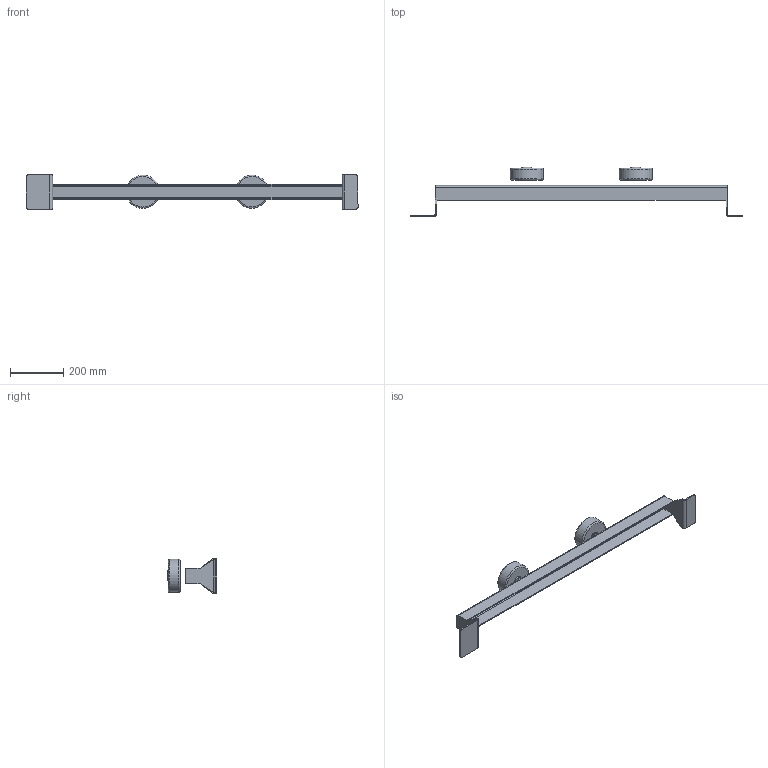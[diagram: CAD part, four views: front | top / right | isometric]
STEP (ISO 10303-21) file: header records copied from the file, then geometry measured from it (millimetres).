
FILE_DESCRIPTION((''),'2;1');
FILE_NAME('C:\Vault_Working_Folder\Designs\Inventor\Lättviktsmodeller\Maxi\IRPH 80-1150.stp','2012-11-13T09:50:37',('martin.samuelsson'),(''),'Autodesk Inventor 2013','Autodesk Inventor 2013','');
FILE_SCHEMA(('AUTOMOTIVE_DESIGN { 1 0 10303 214 1 1 1 1 }'));
Length unit declared in the file: millimetre
Products named in the file (1): IRPH 80-1150
Bounding box: 1249.7 x 185 x 130 mm (x, y, z)
Volume: 1978310.3 mm3; surface area: 511769.2 mm2
Topology: 3 solids, 3 shells, 56 faces, 132 edges, 86 vertices
Faces by surface type: plane 34, cylinder 14, torus 8
Full cylindrical faces by diameter (mm): 125 x2
Entity records: 1626 total; most frequent: DIRECTION 274, CARTESIAN_POINT 257, ORIENTED_EDGE 236, EDGE_CURVE 118, AXIS2_PLACEMENT_3D 99, VERTEX_POINT 82, VECTOR 76, LINE 76
